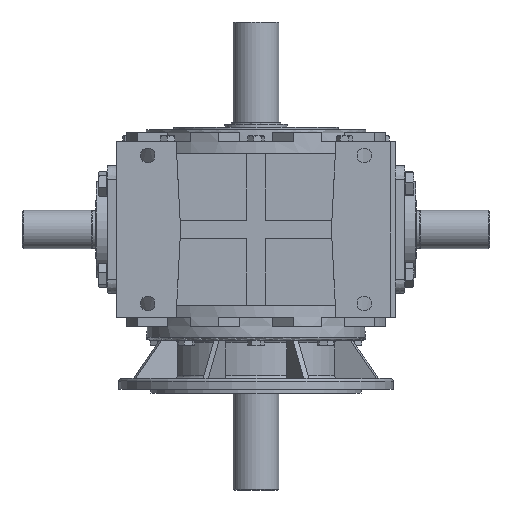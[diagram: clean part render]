
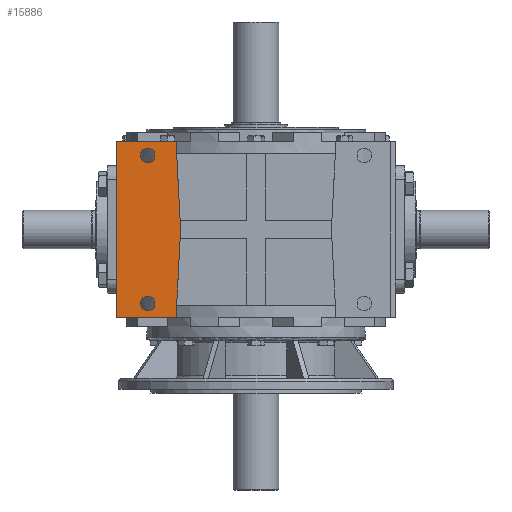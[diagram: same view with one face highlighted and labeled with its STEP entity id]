
A CAD part, front view. The second image highlights one B-rep face of the part: STEP entity #15886.
In plain terms, the highlighted planar face has unit normal (0, -1, 0).
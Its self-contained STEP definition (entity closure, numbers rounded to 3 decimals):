
#380 = DIRECTION ( 'NONE',  ( 0., 0., -1. ) ) ;
#429 = DIRECTION ( 'NONE',  ( 0., -1., 0. ) ) ;
#517 = DIRECTION ( 'NONE',  ( 0.052, 0., -0.999 ) ) ;
#624 = CARTESIAN_POINT ( 'NONE',  ( -118.5, -210., -81. ) ) ;
#767 = AXIS2_PLACEMENT_3D ( 'NONE', #34825, #34493, #34405 ) ;
#995 = CARTESIAN_POINT ( 'NONE',  ( -82.469, -210., 0. ) ) ;
#1827 = ORIENTED_EDGE ( 'NONE', *, *, #26996, .T. ) ;
#2124 = DIRECTION ( 'NONE',  ( -0.052, 0., -0.999 ) ) ;
#3107 = ORIENTED_EDGE ( 'NONE', *, *, #4566, .F. ) ;
#3477 = VECTOR ( 'NONE', #517, 1000. ) ;
#3892 = LINE ( 'NONE', #995, #3477 ) ;
#4566 = EDGE_CURVE ( 'NONE', #24378, #24378, #6715, .T. ) ;
#4812 = VECTOR ( 'NONE', #23939, 1000. ) ;
#4882 = CARTESIAN_POINT ( 'NONE',  ( -87.5, -210., -96. ) ) ;
#5001 = EDGE_CURVE ( 'NONE', #22347, #33298, #3892, .T. ) ;
#5060 = LINE ( 'NONE', #4882, #4812 ) ;
#5841 = ORIENTED_EDGE ( 'NONE', *, *, #36486, .F. ) ;
#6186 = CARTESIAN_POINT ( 'NONE',  ( -152.5, -210., -55. ) ) ;
#6380 = ORIENTED_EDGE ( 'NONE', *, *, #5001, .F. ) ;
#6702 = EDGE_CURVE ( 'NONE', #11083, #11083, #25643, .T. ) ;
#6715 = CIRCLE ( 'NONE', #9173, 8. ) ;
#7814 = EDGE_CURVE ( 'NONE', #32147, #34581, #10971, .T. ) ;
#9096 = CARTESIAN_POINT ( 'NONE',  ( -87.5, -210., 96. ) ) ;
#9173 = AXIS2_PLACEMENT_3D ( 'NONE', #26356, #26379, #26475 ) ;
#10553 = ORIENTED_EDGE ( 'NONE', *, *, #29228, .F. ) ;
#10971 = LINE ( 'NONE', #23458, #11550 ) ;
#11083 = VERTEX_POINT ( 'NONE', #31096 ) ;
#11550 = VECTOR ( 'NONE', #23448, 1000. ) ;
#11711 = VERTEX_POINT ( 'NONE', #19629 ) ;
#12269 = FACE_OUTER_BOUND ( 'NONE', #17446, .T. ) ;
#12394 = EDGE_LOOP ( 'NONE', ( #25910 ) ) ;
#12521 = FACE_BOUND ( 'NONE', #24475, .T. ) ;
#12562 = FACE_BOUND ( 'NONE', #12394, .T. ) ;
#15202 = CARTESIAN_POINT ( 'NONE',  ( -152.5, -210., 55. ) ) ;
#15303 = CARTESIAN_POINT ( 'NONE',  ( -82.469, -210., 0. ) ) ;
#15465 = CARTESIAN_POINT ( 'NONE',  ( -87.5, -210., 96. ) ) ;
#15600 = DIRECTION ( 'NONE',  ( -1., 0., 0. ) ) ;
#15886 = ADVANCED_FACE ( 'NONE', ( #12562, #12521, #12269 ), #34647, .F. ) ;
#16958 = CARTESIAN_POINT ( 'NONE',  ( -152.5, -210., -96. ) ) ;
#17446 = EDGE_LOOP ( 'NONE', ( #1827, #5841, #18798, #33578, #37953, #10553, #6380 ) ) ;
#18798 = ORIENTED_EDGE ( 'NONE', *, *, #27048, .F. ) ;
#19629 = CARTESIAN_POINT ( 'NONE',  ( -152.5, -210., 96. ) ) ;
#21302 = VECTOR ( 'NONE', #28320, 1000. ) ;
#21649 = LINE ( 'NONE', #25249, #21302 ) ;
#22044 = LINE ( 'NONE', #9096, #22304 ) ;
#22304 = VECTOR ( 'NONE', #15600, 1000. ) ;
#22347 = VERTEX_POINT ( 'NONE', #15465 ) ;
#23448 = DIRECTION ( 'NONE',  ( 0., 0., 1. ) ) ;
#23458 = CARTESIAN_POINT ( 'NONE',  ( -152.5, -210., -96. ) ) ;
#23485 = LINE ( 'NONE', #25449, #23590 ) ;
#23590 = VECTOR ( 'NONE', #34629, 1000. ) ;
#23939 = DIRECTION ( 'NONE',  ( -1., 0., 0. ) ) ;
#24378 = VERTEX_POINT ( 'NONE', #30816 ) ;
#24475 = EDGE_LOOP ( 'NONE', ( #3107 ) ) ;
#24478 = CARTESIAN_POINT ( 'NONE',  ( -87.5, -210., -96. ) ) ;
#24609 = LINE ( 'NONE', #24478, #24997 ) ;
#24997 = VECTOR ( 'NONE', #2124, 1000. ) ;
#25069 = EDGE_CURVE ( 'NONE', #30943, #32147, #5060, .T. ) ;
#25249 = CARTESIAN_POINT ( 'NONE',  ( -152.5, -210., -55. ) ) ;
#25449 = CARTESIAN_POINT ( 'NONE',  ( -152.5, -210., -96. ) ) ;
#25643 = CIRCLE ( 'NONE', #34845, 8. ) ;
#25910 = ORIENTED_EDGE ( 'NONE', *, *, #6702, .F. ) ;
#26356 = CARTESIAN_POINT ( 'NONE',  ( -118.5, -210., 81. ) ) ;
#26379 = DIRECTION ( 'NONE',  ( 0., -1., 0. ) ) ;
#26475 = DIRECTION ( 'NONE',  ( 0., 0., -1. ) ) ;
#26996 = EDGE_CURVE ( 'NONE', #22347, #11711, #22044, .T. ) ;
#27048 = EDGE_CURVE ( 'NONE', #34581, #38525, #21649, .T. ) ;
#28320 = DIRECTION ( 'NONE',  ( 0., 0., 1. ) ) ;
#29228 = EDGE_CURVE ( 'NONE', #33298, #30943, #24609, .T. ) ;
#30816 = CARTESIAN_POINT ( 'NONE',  ( -118.5, -210., 73. ) ) ;
#30943 = VERTEX_POINT ( 'NONE', #40251 ) ;
#31096 = CARTESIAN_POINT ( 'NONE',  ( -118.5, -210., -89. ) ) ;
#32147 = VERTEX_POINT ( 'NONE', #16958 ) ;
#33298 = VERTEX_POINT ( 'NONE', #15303 ) ;
#33578 = ORIENTED_EDGE ( 'NONE', *, *, #7814, .F. ) ;
#34405 = DIRECTION ( 'NONE',  ( 0., 0., 1. ) ) ;
#34493 = DIRECTION ( 'NONE',  ( 0., 1., 0. ) ) ;
#34581 = VERTEX_POINT ( 'NONE', #6186 ) ;
#34629 = DIRECTION ( 'NONE',  ( 0., 0., 1. ) ) ;
#34647 = PLANE ( 'NONE',  #767 ) ;
#34825 = CARTESIAN_POINT ( 'NONE',  ( -87.5, -210., -96. ) ) ;
#34845 = AXIS2_PLACEMENT_3D ( 'NONE', #624, #429, #380 ) ;
#36486 = EDGE_CURVE ( 'NONE', #38525, #11711, #23485, .T. ) ;
#37953 = ORIENTED_EDGE ( 'NONE', *, *, #25069, .F. ) ;
#38525 = VERTEX_POINT ( 'NONE', #15202 ) ;
#40251 = CARTESIAN_POINT ( 'NONE',  ( -87.5, -210., -96. ) ) ;
